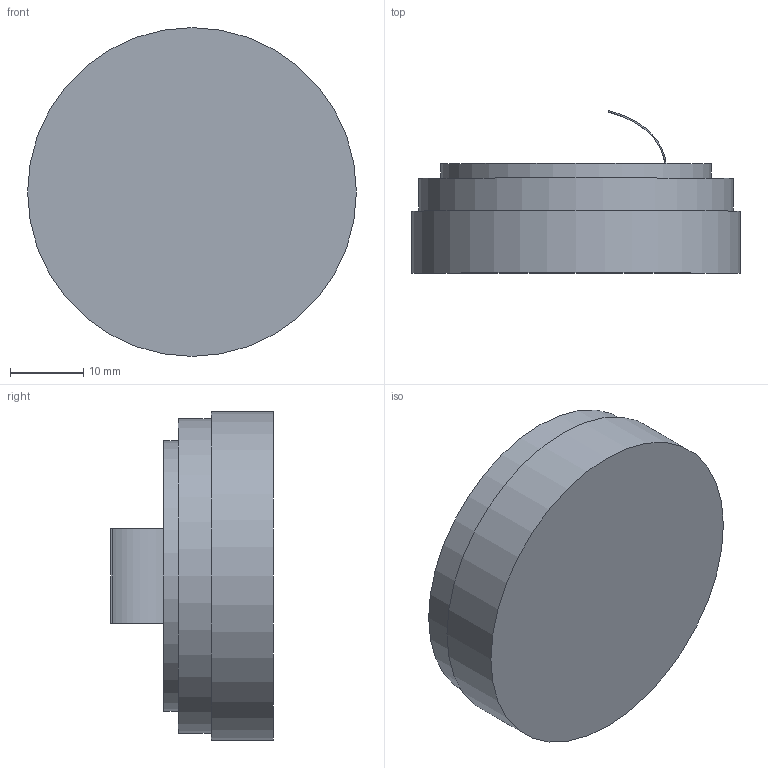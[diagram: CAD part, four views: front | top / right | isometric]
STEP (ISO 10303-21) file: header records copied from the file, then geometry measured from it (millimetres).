
FILE_DESCRIPTION(/* description */ ('STEP AP242 Edition 2','CAx-IF Rec.Pracs.---Representation and Presentation of Product Manufacturing Information (PMI)---4.0---2014-10-13','CAx-IF Rec.Pracs.---3D Tessellated Geometry---0.4---2014-09-14','2;1','CAx-IF Rec.Pracs.---User Defined Attributes---1.5---2016-08-15'),/* implementation_level */ '2;1');
FILE_NAME(/* name */ '6acff56fd2675886937db9a8',/* time_stamp */ '2026-10-14T21:34:40Z',/* author */ (''),/* organization */ (''),/* preprocessor_version */ 'ST-DEVELOPER v20',/* originating_system */ 'ONSHAPE BY PTC INC, 1.222',/* authorisation */ ' ');
FILE_SCHEMA (('AP242_MANAGED_MODEL_BASED_3D_ENGINEERING_MIM_LF { 1 0 10303 442 3 1 4 }'));
Length unit declared in the file: metre
Products named in the file (6): Mooveye_E40; pupille; cable; glass; sticker; potting
Assembly tree (5 placements, depth 2):
  Mooveye_E40
    pupille
    cable
    glass
    sticker
    potting
Bounding box: 45 x 22.26 x 45 mm (x, y, z)
Volume: 8202.1 mm3; surface area: 12398.1 mm2
Topology: 5 solids, 5 shells, 30 faces, 54 edges, 36 vertices
Faces by surface type: plane 18, cylinder 10, bspline 2
Full cylindrical faces by diameter (mm): 20 x1, 37 x1, 41 x2, 43.1 x1, 45 x1
Entity records: 889 total; most frequent: CARTESIAN_POINT 164, DIRECTION 132, ORIENTED_EDGE 96, AXIS2_PLACEMENT_3D 54, EDGE_CURVE 48, EDGE_LOOP 40, FACE_BOUND 40, VERTEX_POINT 36
